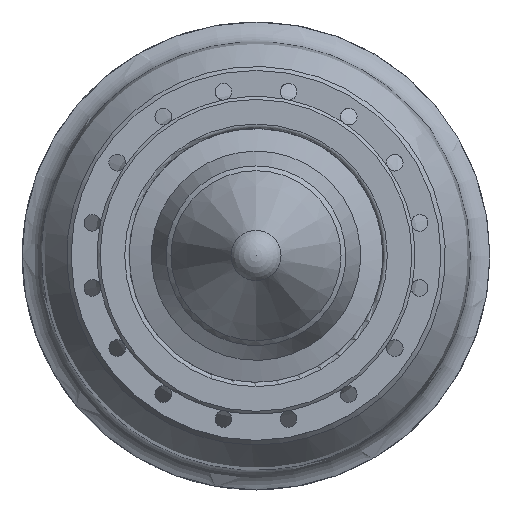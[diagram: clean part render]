
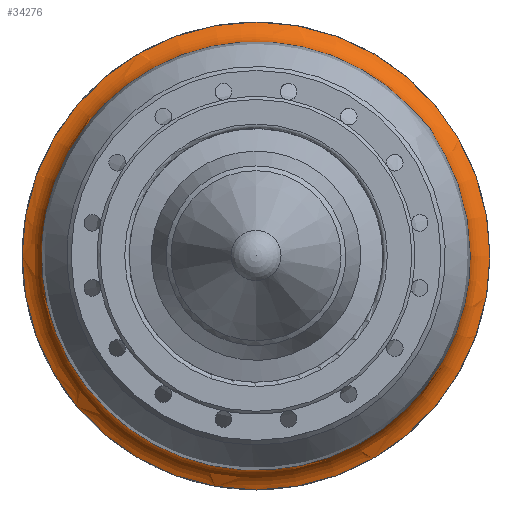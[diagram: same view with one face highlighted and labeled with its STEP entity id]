
A CAD part, top view. The second image highlights one B-rep face of the part: STEP entity #34276.
In plain terms, the highlighted toroidal (fillet/blend) face has major radius 334.654 mm and minor radius 40 mm.
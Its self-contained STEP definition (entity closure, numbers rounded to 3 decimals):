
#422=TOROIDAL_SURFACE('',#36445,334.654,40.);
#4586=B_SPLINE_CURVE_WITH_KNOTS('',3,(#71792,#71793,#71794,#71795,#71796,
#71797,#71798,#71799,#71800,#71801,#71802,#71803,#71804,#71805,#71806,#71807,
#71808,#71809,#71810,#71811,#71812,#71813,#71814,#71815,#71816,#71817,#71818,
#71819,#71820,#71821,#71822,#71823,#71824,#71825,#71826,#71827,#71828,#71829,
#71830,#71831,#71832,#71833,#71834,#71835,#71836,#71837,#71838,#71839,#71840,
#71841,#71842,#71843,#71844,#71845,#71846,#71847,#71848,#71849,#71850,#71851,
#71852,#71853,#71854,#71855,#71856,#71857,#71858,#71859,#71860,#71861,#71862,
#71863,#71864,#71865,#71866,#71867,#71868,#71869,#71870,#71871,#71872,#71873,
#71874,#71875,#71876,#71877,#71878,#71879,#71880,#71881,#71882,#71883,#71884,
#71885,#71886),.UNSPECIFIED.,.T.,.F.,(1,1,1,1,1,1,1,1,1,1,1,1,1,1,1,1,1,
1,1,1,1,1,1,1,1,1,1,1,1,1,1,1,1,1,1,1,1,1,1,1,1,1,1,1,1,1,1,1,1,1,1,1,1,
1,1,1,1,1,1,1,1,1,1,1,1,1,1,1,1,1,1,1,1,1,1,1,1,1,1,1,1,1,1,1,1,1,1,1,1,
1,1,1,1,1,1,1,1,1,1),(-0.088,-0.058,-0.029,
0.,0.015,0.029,0.058,
0.088,0.117,0.132,0.146,0.175,
0.19,0.205,0.219,0.234,0.263,
0.278,0.292,0.307,0.322,0.351,
0.38,0.395,0.409,0.438,0.453,
0.468,0.482,0.497,0.526,0.555,
0.585,0.599,0.614,0.628,0.643,
0.672,0.687,0.701,0.731,0.76,
0.775,0.789,0.804,0.818,0.848,
0.877,0.891,0.906,0.935,0.965,
0.979,0.994,1.008,1.023,1.052,
1.081,1.096,1.111,1.14,1.169,
1.184,1.198,1.213,1.228,1.257,
1.286,1.301,1.315,1.344,1.359,
1.374,1.388,1.403,1.432,1.461,
1.491,1.505,1.52,1.534,1.549,
1.578,1.593,1.608,1.637,1.666,
1.681,1.695,1.71,1.724,1.754,
1.783,1.812,1.841,1.871,1.885,
1.9,1.929),.UNSPECIFIED.);
#10717=ORIENTED_EDGE('',*,*,#14260,.F.);
#10718=ORIENTED_EDGE('',*,*,#14261,.T.);
#14260=EDGE_CURVE('',#16614,#16614,#4586,.T.);
#14261=EDGE_CURVE('',#16615,#16615,#17604,.T.);
#16614=VERTEX_POINT('',#71887);
#16615=VERTEX_POINT('',#71890);
#17604=CIRCLE('',#36446,322.5);
#19575=EDGE_LOOP('',(#10717));
#19576=EDGE_LOOP('',(#10718));
#21793=FACE_BOUND('',#19575,.T.);
#21794=FACE_BOUND('',#19576,.T.);
#34276=ADVANCED_FACE('',(#21793,#21794),#422,.F.);
#36445=AXIS2_PLACEMENT_3D('',#71888,#41795,#41796);
#36446=AXIS2_PLACEMENT_3D('',#71889,#41797,#41798);
#41795=DIRECTION('',(0.,0.,1.));
#41796=DIRECTION('',(1.,0.,0.));
#41797=DIRECTION('',(0.,0.,1.));
#41798=DIRECTION('',(1.,0.,0.));
#71792=CARTESIAN_POINT('',(-292.465,44.516,208.092));
#71793=CARTESIAN_POINT('',(-294.94,20.343,208.091));
#71794=CARTESIAN_POINT('',(-295.479,0.846,208.091));
#71795=CARTESIAN_POINT('',(-295.05,-18.67,208.091));
#71796=CARTESIAN_POINT('',(-292.723,-42.766,208.092));
#71797=CARTESIAN_POINT('',(-287.163,-71.07,208.093));
#71798=CARTESIAN_POINT('',(-280.245,-94.159,208.094));
#71799=CARTESIAN_POINT('',(-273.276,-112.378,208.095));
#71800=CARTESIAN_POINT('',(-265.444,-130.161,208.096));
#71801=CARTESIAN_POINT('',(-256.36,-147.244,208.098));
#71802=CARTESIAN_POINT('',(-246.035,-163.632,208.099));
#71803=CARTESIAN_POINT('',(-237.644,-175.599,208.101));
#71804=CARTESIAN_POINT('',(-228.683,-187.117,208.102));
#71805=CARTESIAN_POINT('',(-216.072,-201.779,208.104));
#71806=CARTESIAN_POINT('',(-202.441,-215.452,208.106));
#71807=CARTESIAN_POINT('',(-187.813,-228.115,208.109));
#71808=CARTESIAN_POINT('',(-176.296,-237.129,208.111));
#71809=CARTESIAN_POINT('',(-164.39,-245.531,208.112));
#71810=CARTESIAN_POINT('',(-148.095,-255.871,208.115));
#71811=CARTESIAN_POINT('',(-126.901,-267.232,208.119));
#71812=CARTESIAN_POINT('',(-104.658,-276.501,208.122));
#71813=CARTESIAN_POINT('',(-86.142,-282.651,208.125));
#71814=CARTESIAN_POINT('',(-67.447,-287.847,208.128));
#71815=CARTESIAN_POINT('',(-48.564,-291.624,208.131));
#71816=CARTESIAN_POINT('',(-29.481,-294.011,208.134));
#71817=CARTESIAN_POINT('',(-15.068,-295.101,208.137));
#71818=CARTESIAN_POINT('',(-0.566,-295.488,208.139));
#71819=CARTESIAN_POINT('',(18.954,-295.042,208.142));
#71820=CARTESIAN_POINT('',(42.997,-292.698,208.146));
#71821=CARTESIAN_POINT('',(71.299,-287.119,208.151));
#71822=CARTESIAN_POINT('',(94.412,-280.173,208.154));
#71823=CARTESIAN_POINT('',(112.644,-273.179,208.157));
#71824=CARTESIAN_POINT('',(125.927,-267.314,208.159));
#71825=CARTESIAN_POINT('',(138.852,-260.835,208.162));
#71826=CARTESIAN_POINT('',(155.604,-251.385,208.164));
#71827=CARTESIAN_POINT('',(171.639,-240.726,208.167));
#71828=CARTESIAN_POINT('',(186.949,-228.839,208.169));
#71829=CARTESIAN_POINT('',(201.756,-216.117,208.172));
#71830=CARTESIAN_POINT('',(218.829,-199.091,208.175));
#71831=CARTESIAN_POINT('',(234.125,-180.54,208.177));
#71832=CARTESIAN_POINT('',(245.274,-164.796,208.179));
#71833=CARTESIAN_POINT('',(253.093,-152.52,208.18));
#71834=CARTESIAN_POINT('',(260.333,-139.802,208.181));
#71835=CARTESIAN_POINT('',(269.055,-122.554,208.183));
#71836=CARTESIAN_POINT('',(278.307,-100.347,208.184));
#71837=CARTESIAN_POINT('',(285.363,-77.329,208.185));
#71838=CARTESIAN_POINT('',(289.674,-58.38,208.186));
#71839=CARTESIAN_POINT('',(293.049,-39.186,208.187));
#71840=CARTESIAN_POINT('',(295.454,-15.222,208.187));
#71841=CARTESIAN_POINT('',(295.521,8.83,208.187));
#71842=CARTESIAN_POINT('',(294.159,28.089,208.187));
#71843=CARTESIAN_POINT('',(292.414,42.583,208.187));
#71844=CARTESIAN_POINT('',(289.953,56.972,208.186));
#71845=CARTESIAN_POINT('',(285.765,75.818,208.185));
#71846=CARTESIAN_POINT('',(278.841,98.852,208.184));
#71847=CARTESIAN_POINT('',(269.702,121.135,208.183));
#71848=CARTESIAN_POINT('',(260.992,138.57,208.181));
#71849=CARTESIAN_POINT('',(251.456,155.502,208.18));
#71850=CARTESIAN_POINT('',(238.129,175.551,208.178));
#71851=CARTESIAN_POINT('',(222.927,194.198,208.175));
#71852=CARTESIAN_POINT('',(209.648,208.242,208.173));
#71853=CARTESIAN_POINT('',(199.081,218.367,208.171));
#71854=CARTESIAN_POINT('',(188.086,227.903,208.17));
#71855=CARTESIAN_POINT('',(172.91,239.813,208.167));
#71856=CARTESIAN_POINT('',(152.958,253.231,208.164));
#71857=CARTESIAN_POINT('',(131.738,264.681,208.16));
#71858=CARTESIAN_POINT('',(113.918,272.651,208.158));
#71859=CARTESIAN_POINT('',(95.854,279.678,208.155));
#71860=CARTESIAN_POINT('',(77.445,285.321,208.152));
#71861=CARTESIAN_POINT('',(58.694,289.6,208.149));
#71862=CARTESIAN_POINT('',(44.457,292.124,208.146));
#71863=CARTESIAN_POINT('',(30.053,293.957,208.144));
#71864=CARTESIAN_POINT('',(10.584,295.46,208.141));
#71865=CARTESIAN_POINT('',(-13.55,295.526,208.137));
#71866=CARTESIAN_POINT('',(-42.268,292.801,208.132));
#71867=CARTESIAN_POINT('',(-65.981,288.191,208.128));
#71868=CARTESIAN_POINT('',(-84.818,283.051,208.125));
#71869=CARTESIAN_POINT('',(-98.607,278.544,208.123));
#71870=CARTESIAN_POINT('',(-112.11,273.389,208.121));
#71871=CARTESIAN_POINT('',(-129.719,265.659,208.118));
#71872=CARTESIAN_POINT('',(-146.741,256.653,208.115));
#71873=CARTESIAN_POINT('',(-163.179,246.34,208.113));
#71874=CARTESIAN_POINT('',(-179.171,235.165,208.11));
#71875=CARTESIAN_POINT('',(-197.846,219.937,208.107));
#71876=CARTESIAN_POINT('',(-214.92,203.003,208.104));
#71877=CARTESIAN_POINT('',(-227.589,188.446,208.102));
#71878=CARTESIAN_POINT('',(-236.605,176.996,208.101));
#71879=CARTESIAN_POINT('',(-245.07,165.074,208.099));
#71880=CARTESIAN_POINT('',(-255.463,148.792,208.098));
#71881=CARTESIAN_POINT('',(-266.883,127.621,208.096));
#71882=CARTESIAN_POINT('',(-278.071,100.981,208.094));
#71883=CARTESIAN_POINT('',(-286.703,72.96,208.093));
#71884=CARTESIAN_POINT('',(-292.465,44.516,208.092));
#71885=CARTESIAN_POINT('',(-294.94,20.343,208.091));
#71886=CARTESIAN_POINT('',(-295.479,0.846,208.091));
#71887=CARTESIAN_POINT('',(-294.955,15.455,208.091));
#71888=CARTESIAN_POINT('',(0.,0.,200.609));
#71889=CARTESIAN_POINT('',(0.,0.,162.5));
#71890=CARTESIAN_POINT('',(322.5,0.,162.5));
